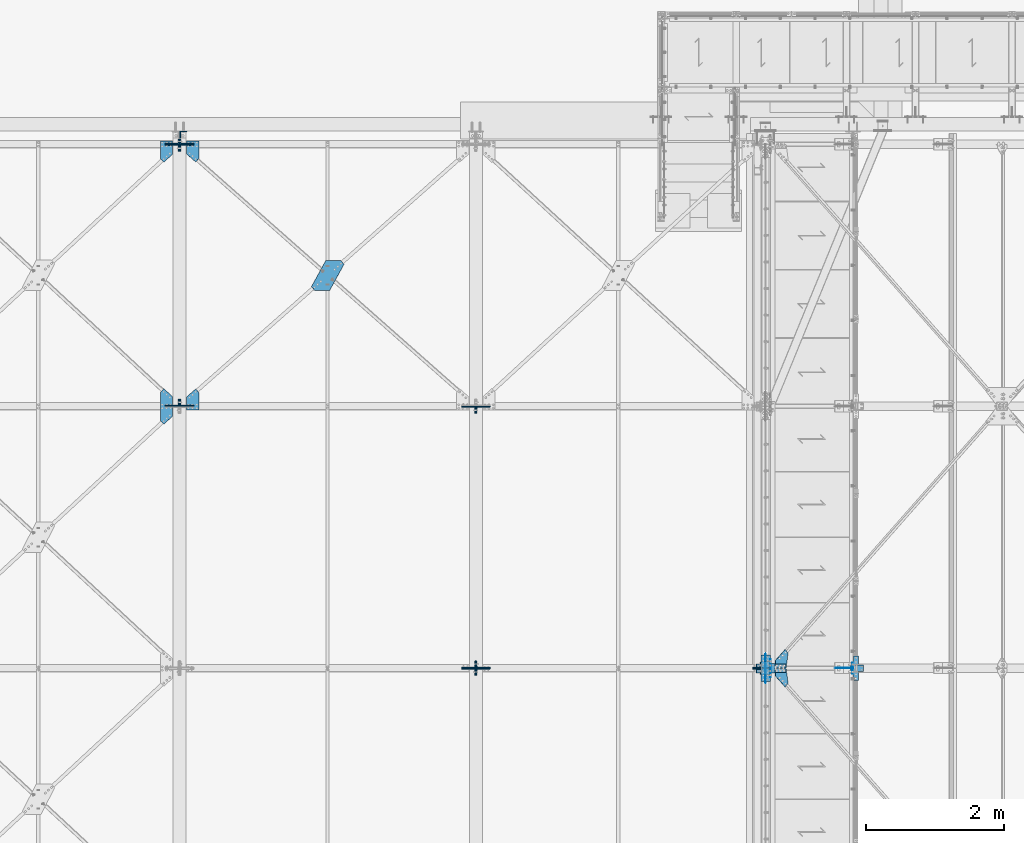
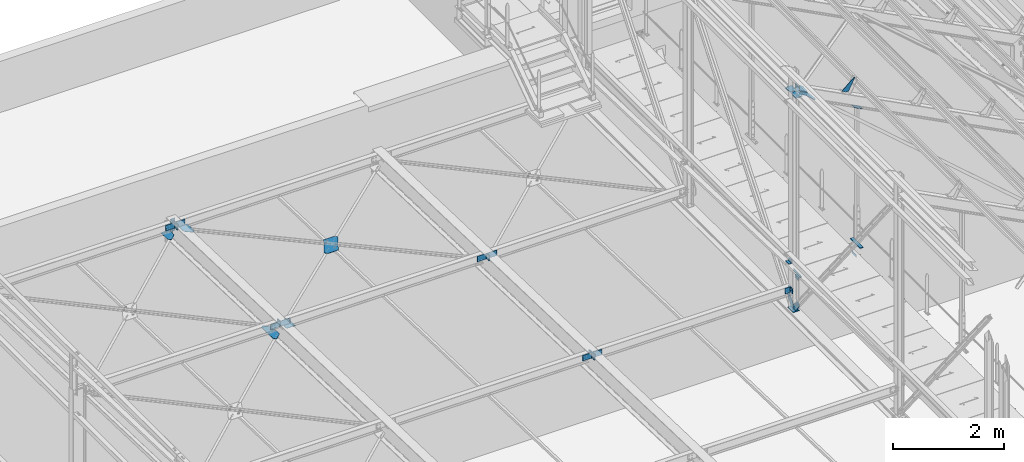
# One storey, part 80 of 362: 20 beams, 17 members, 31 elements without a shape of their own.
"""IFC2X3 building model written with IfcOpenShell, lengths in millimetres."""

from ifc_helpers import new_model, si_unit, frame, frame_2d, origin_with_axes, origin_2d_with_axis, place, context, subcontext, project, spatial, polyline, circle_curve, parameter, trimmed, segment, composite_curve, rectangle, l_section, outline, extrude, clip, halfspace, material, type_object, element, aggregate, save


model = new_model("IFC2X3")

# Units and contexts
model_context = context("Model", 3, precision=1e-05, world=origin_with_axes())
body_context = subcontext(model_context, "Body", "Model", "MODEL_VIEW")
ifc_project = project(units=[si_unit("LENGTHUNIT", "METRE", prefix="MILLI"), si_unit("AREAUNIT", "SQUARE_METRE"), si_unit("VOLUMEUNIT", "CUBIC_METRE"), si_unit("MASSUNIT", "GRAM", prefix="KILO"), si_unit("TIMEUNIT", "SECOND"), si_unit("PLANEANGLEUNIT", "RADIAN"), si_unit("SOLIDANGLEUNIT", "STERADIAN"), si_unit("THERMODYNAMICTEMPERATUREUNIT", "DEGREE_CELSIUS"), si_unit("LUMINOUSINTENSITYUNIT", "LUMEN")], contexts=[model_context])

# Site, building, storey
site_placement = place(None, origin_with_axes())
site = spatial("IfcSite", under=ifc_project, at=site_placement, Name="Undefined", CompositionType="ELEMENT")
building_placement = place(site_placement, origin_with_axes())
building = spatial("IfcBuilding", under=site, at=building_placement, Name="Undefined", CompositionType="ELEMENT")
storey_placement = place(building_placement, origin_with_axes())
storey = spatial("IfcBuildingStorey", under=building, at=storey_placement, Name="Undefined", CompositionType="ELEMENT", Elevation=0.0)

# Assembly, beam
assembly_1_placement = place(storey_placement, origin_with_axes())
assembly_1 = element("IfcElementAssembly", 1, at=assembly_1_placement, inside=storey, AssemblyPlace="NOTDEFINED", PredefinedType="NOTDEFINED")
ifc_material = material(Name="Undefined/S235-E24")
beam_type_1 = type_object("IfcBeamType", Name="L70*7", PredefinedType="NOTDEFINED")
beam_1_placement = place(assembly_1_placement, frame((12781.5082291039, 7530.0, 7915.0), z_axis=(1.0, 0.0, 0.0), x_axis=(0.0, 1.0, 0.0)))
beam_1 = element("IfcBeam", 2, at=beam_1_placement, type_object=beam_type_1, material=ifc_material, Name="ATTACHE", ObjectType="L70*7", context=body_context, shape_type="SweptSolid", body=[
    extrude(l_section(Depth=70.0, Width=70.0, Thickness=7.0, FilletRadius=9.0, EdgeRadius=4.5, at=origin_2d_with_axis()), frame((140.0, 0.0, 0.0), z_axis=(-1.0, 0.0, 0.0), x_axis=(0.0, -1.0, 0.0)), (0.0, 0.0, 1.0), 140.0),
])
aggregate(assembly_1, [beam_1])

assembly_2_placement = place(storey_placement, origin_with_axes())
assembly_2 = element("IfcElementAssembly", 3, at=assembly_2_placement, inside=storey, AssemblyPlace="NOTDEFINED", PredefinedType="NOTDEFINED")
beam_2_placement = place(assembly_2_placement, frame((12578.5000000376, 7664.81291402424, 8349.41493629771), z_axis=(0.0, 0.0314135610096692, 0.999506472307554), x_axis=(0.0, -0.999506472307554, 0.031413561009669)))
beam_2 = element("IfcBeam", 4, at=beam_2_placement, type_object=beam_type_1, material=ifc_material, Name="ATTACHE", ObjectType="L70*7", context=body_context, shape_type="SweptSolid", body=[
    extrude(l_section(Depth=70.0, Width=70.0, Thickness=7.0, FilletRadius=9.0, EdgeRadius=4.5, at=origin_2d_with_axis()), frame((130.004127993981, 0.0, 9.02084851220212e-16), z_axis=(-1.0, 0.0, 0.0), x_axis=(0.0, -1.0, 0.0)), (0.0, 0.0, 1.0), 130.0),
])
aggregate(assembly_2, [beam_2])

assembly_3_placement = place(storey_placement, origin_with_axes())
assembly_3 = element("IfcElementAssembly", 5, at=assembly_3_placement, inside=storey, AssemblyPlace="NOTDEFINED", PredefinedType="NOTDEFINED")
beam_type_2 = type_object("IfcBeamType", Name="TOLE6*196", PredefinedType="NOTDEFINED")
beam_3_placement = place(assembly_3_placement, frame((12979.8795234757, 7586.50020636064, 11910.9317991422), z_axis=(0.463528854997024, 6.99999093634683e-09, 0.886081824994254), x_axis=(-0.886082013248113, 9.38091927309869e-07, 0.463528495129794)))
beam_3 = element("IfcBeam", 6, at=beam_3_placement, type_object=beam_type_2, material=ifc_material, Name="GOUSSET", ObjectType="TOLE6*196", context=body_context, shape_type="SweptSolid", body=[
    extrude(outline(polyline([(0.0, 0.0), (180.000000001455, -5.27506927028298e-10), (179.99996948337, 96.5251846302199), (18.9664421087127, 258.555816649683), (-30.6835594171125, 209.211318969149), (0.0, 0.0)])), frame((0.0, 0.0, -3.0), z_axis=(0.0, 0.0, 1.0), x_axis=(1.0, 0.0, 0.0)), (0.0, 0.0, 1.0), 6.0),
])
aggregate(assembly_3, [beam_3])

assembly_4_placement = place(storey_placement, origin_with_axes())
assembly_4 = element("IfcElementAssembly", 7, at=assembly_4_placement, inside=storey, AssemblyPlace="NOTDEFINED", PredefinedType="NOTDEFINED")
beam_4_placement = place(assembly_4_placement, frame((13007.0676814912, 7822.71112097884, 11896.7090901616), z_axis=(0.463528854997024, 6.99999093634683e-09, 0.886081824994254), x_axis=(-0.628485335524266, 0.704921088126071, 0.328774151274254)))
beam_4 = element("IfcBeam", 8, at=beam_4_placement, type_object=beam_type_2, material=ifc_material, Name="GOUSSET", ObjectType="TOLE6*196", context=body_context, shape_type="SweptSolid", body=[
    extrude(outline(polyline([(0.0, 0.0), (70.0, 0.0), (69.999999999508, 228.441986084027), (1.9573673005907, 296.90588378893), (-125.714042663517, 170.020095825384), (0.0, 0.0)])), frame((0.0, 0.0, -3.0), z_axis=(0.0, 0.0, 1.0), x_axis=(1.0, 0.0, 0.0)), (0.0, 0.0, 1.0), 6.0),
])
aggregate(assembly_4, [beam_4])

# Assembly, member
assembly_5_placement = place(storey_placement, origin_with_axes())
assembly_5 = element("IfcElementAssembly", 9, at=assembly_5_placement, inside=storey, AssemblyPlace="NOTDEFINED", PredefinedType="NOTDEFINED")
member_type_1 = type_object("IfcMemberType", Name="L60*6", PredefinedType="NOTDEFINED")
member_1_placement = place(assembly_5_placement, frame((12805.0883119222, 7566.50010304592, 11965.1262198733), z_axis=(0.0, -1.0, 0.0), x_axis=(0.886081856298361, 3.500000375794e-08, -0.463528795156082)))
member_1 = element("IfcMember", 10, at=member_1_placement, type_object=member_type_1, material=ifc_material, Name="ATTACHE", ObjectType="L60*6", context=body_context, shape_type="SweptSolid", body=[
    extrude(l_section(Depth=60.0, Width=60.0, Thickness=6.0, FilletRadius=8.0, EdgeRadius=4.0, at=origin_2d_with_axis()), frame((180.0, 0.0, 0.0), z_axis=(-1.0, 0.0, 0.0), x_axis=(0.0, -1.0, 0.0)), (0.0, 0.0, 1.0), 180.0),
])
aggregate(assembly_5, [member_1])

assembly_6_placement = place(storey_placement, origin_with_axes())
assembly_6 = element("IfcElementAssembly", 11, at=assembly_6_placement, inside=storey, AssemblyPlace="NOTDEFINED", PredefinedType="NOTDEFINED")
member_2_placement = place(assembly_6_placement, frame((12964.583045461, 7633.49989955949, 11881.691036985), z_axis=(0.0, 1.0, 0.0), x_axis=(-0.886081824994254, 0.0, 0.463528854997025)))
member_2 = element("IfcMember", 12, at=member_2_placement, type_object=member_type_1, material=ifc_material, Name="ATTACHE", ObjectType="L60*6", context=body_context, shape_type="SweptSolid", body=[
    extrude(l_section(Depth=60.0, Width=60.0, Thickness=6.0, FilletRadius=8.0, EdgeRadius=4.0, at=origin_2d_with_axis()), frame((180.0, 0.0, 0.0), z_axis=(-1.0, 0.0, 0.0), x_axis=(0.0, -1.0, 0.0)), (0.0, 0.0, 1.0), 180.0),
])
aggregate(assembly_6, [member_2])

# Assembly, beam
assembly_7_placement = place(storey_placement, origin_with_axes())
assembly_7 = element("IfcElementAssembly", 13, at=assembly_7_placement, inside=storey, Name="PANNE SHED", AssemblyPlace="NOTDEFINED", PredefinedType="NOTDEFINED")
beam_type_3 = type_object("IfcBeamType", Name="TOLE8*140", PredefinedType="NOTDEFINED")
beam_5_placement = place(assembly_7_placement, frame((13957.7613225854, 7600.0, 11910.6201334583), z_axis=(0.0, -1.0, 0.0), x_axis=(-0.886081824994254, 0.0, 0.463528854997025)))
beam_5 = element("IfcBeam", 14, at=beam_5_placement, type_object=beam_type_3, material=ifc_material, Name="RAIDISSEUR", ObjectType="TOLE8*140", context=body_context, shape_type="SweptSolid", body=[
    extrude(outline(polyline([(0.0, 0.0), (19.9999999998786, -3.63797880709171e-12), (140.000030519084, 299.999999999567), (140.000030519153, 319.999999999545), (30.0000147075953, 319.999999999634), (0.0, 290.0), (0.0, 0.0)])), frame((0.0, 0.0, -4.0), z_axis=(0.0, 0.0, 1.0), x_axis=(1.0, 0.0, 0.0)), (0.0, 0.0, 1.0), 8.0),
])
aggregate(assembly_7, [beam_5])

assembly_8_placement = place(storey_placement, origin_with_axes())
assembly_8 = element("IfcElementAssembly", 15, at=assembly_8_placement, inside=storey, AssemblyPlace="NOTDEFINED", PredefinedType="NOTDEFINED")
beam_type_4 = type_object("IfcBeamType", Name="TOLE6*182", PredefinedType="NOTDEFINED")
beam_6_placement = place(assembly_8_placement, frame((4415.2839202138, 11651.3792403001, 7480.74198576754), z_axis=(7.58071938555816e-11, 0.0314107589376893, 0.999506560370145), x_axis=(-0.749166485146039, -0.662054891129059, 0.0208062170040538)))
beam_6 = element("IfcBeam", 16, at=beam_6_placement, type_object=beam_type_4, material=ifc_material, Name="GOUSSET", ObjectType="TOLE6*182", context=body_context, shape_type="SweptSolid", body=[
    extrude(outline(polyline([(0.0, 0.0), (180.579223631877, -4.80213202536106e-10), (303.207183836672, 138.694641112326), (167.120590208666, 259.016693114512), (-7.90371359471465e-08, 70.000007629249), (0.0, 0.0)])), frame((0.0, 0.0, -3.0), z_axis=(0.0, 0.0, 1.0), x_axis=(1.0, 0.0, 0.0)), (0.0, 0.0, 1.0), 6.0),
])
aggregate(assembly_8, [beam_6])

assembly_9_placement = place(storey_placement, origin_with_axes())
assembly_9 = element("IfcElementAssembly", 17, at=assembly_9_placement, inside=storey, AssemblyPlace="NOTDEFINED", PredefinedType="NOTDEFINED")
beam_7_placement = place(assembly_9_placement, frame((4415.28392021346, 14942.1461018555, 7377.3239584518), z_axis=(-1.05403257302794e-09, -0.0314112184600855, -0.999506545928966), x_axis=(-0.749166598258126, 0.662054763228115, -0.0208062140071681)))
beam_7 = element("IfcBeam", 18, at=beam_7_placement, type_object=beam_type_4, material=ifc_material, Name="GOUSSET", ObjectType="TOLE6*182", context=body_context, shape_type="SweptSolid", body=[
    extrude(outline(polyline([(0.0, 0.0), (180.579223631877, -4.80213202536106e-10), (303.207183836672, 138.694641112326), (167.120590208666, 259.016693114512), (-7.90371359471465e-08, 70.000007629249), (0.0, 0.0)])), frame((0.0, 0.0, -3.0), z_axis=(0.0, 0.0, 1.0), x_axis=(1.0, 0.0, 0.0)), (0.0, 0.0, 1.0), 6.0),
])
aggregate(assembly_9, [beam_7])

assembly_10_placement = place(storey_placement, origin_with_axes())
assembly_10 = element("IfcElementAssembly", 19, at=assembly_10_placement, inside=storey, AssemblyPlace="NOTDEFINED", PredefinedType="NOTDEFINED")
beam_type_5 = type_object("IfcBeamType", Name="TOLE6*259", PredefinedType="NOTDEFINED")
beam_8_placement = place(assembly_10_placement, frame((6520.32914237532, 13511.6590173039, 7422.27948359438), z_axis=(7.58071938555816e-11, 0.0314107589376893, 0.999506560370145), x_axis=(-1.0, 0.0, 0.0)))
beam_8 = element("IfcBeam", 20, at=beam_8_placement, type_object=beam_type_5, material=ifc_material, Name="GOUSSET", ObjectType="TOLE6*259", context=body_context, shape_type="SweptSolid", body=[
    extrude(outline(polyline([(0.0, 0.0), (219.999999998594, -9.93168214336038e-10), (427.024932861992, 377.55758667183), (380.658203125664, 429.999206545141), (160.658203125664, 429.999206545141), (-46.3667221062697, 52.4416580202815), (0.0, 0.0)])), frame((0.0, 0.0, -3.0), z_axis=(0.0, 0.0, 1.0), x_axis=(1.0, 0.0, 0.0)), (0.0, 0.0, 1.0), 6.0),
])
aggregate(assembly_10, [beam_8])

assembly_11_placement = place(storey_placement, origin_with_axes())
assembly_11 = element("IfcElementAssembly", 21, at=assembly_11_placement, inside=storey, AssemblyPlace="NOTDEFINED", PredefinedType="NOTDEFINED")
beam_type_6 = type_object("IfcBeamType", Name="TOLE6*175", PredefinedType="NOTDEFINED")
beam_9_placement = place(assembly_11_placement, frame((3953.00230697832, 14938.0996102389, 7377.45112643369), z_axis=(7.58071938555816e-11, 0.0314107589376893, 0.999506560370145), x_axis=(0.732434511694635, 0.680501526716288, -0.0213859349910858)))
beam_9 = element("IfcBeam", 22, at=beam_9_placement, type_object=beam_type_6, material=ifc_material, Name="GOUSSET", ObjectType="TOLE6*175", context=body_context, shape_type="SweptSolid", body=[
    extrude(outline(polyline([(0.0, 0.0), (173.391189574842, 4.54747350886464e-11), (303.255157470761, 139.705673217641), (175.330810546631, 258.618286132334), (-7.87930366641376e-05, 69.9999999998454), (0.0, 0.0)])), frame((0.0, 0.0, -3.0), z_axis=(0.0, 0.0, 1.0), x_axis=(1.0, 0.0, 0.0)), (0.0, 0.0, 1.0), 6.0),
])
aggregate(assembly_11, [beam_9])

assembly_12_placement = place(storey_placement, origin_with_axes())
assembly_12 = element("IfcElementAssembly", 23, at=assembly_12_placement, inside=storey, AssemblyPlace="NOTDEFINED", PredefinedType="NOTDEFINED")
beam_10_placement = place(assembly_12_placement, frame((4079.9999991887, 11537.4360725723, 7484.32284643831), z_axis=(7.58071938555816e-11, 0.0314107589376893, 0.999506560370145), x_axis=(-0.732434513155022, 0.680501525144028, -0.0213859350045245)))
beam_10 = element("IfcBeam", 24, at=beam_10_placement, type_object=beam_type_6, material=ifc_material, Name="GOUSSET", ObjectType="TOLE6*175", context=body_context, shape_type="SweptSolid", body=[
    extrude(outline(polyline([(0.0, 0.0), (173.397750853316, 2.20097717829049e-10), (173.397735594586, 70.0000000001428), (-109.18666839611, 373.993011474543), (-179.000320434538, 379.097381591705), (-191.644119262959, 206.167800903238), (0.0, 0.0)])), frame((0.0, 0.0, -3.0), z_axis=(0.0, 0.0, 1.0), x_axis=(1.0, 0.0, 0.0)), (0.0, 0.0, 1.0), 6.0),
])
aggregate(assembly_12, [beam_10])

# Assembly, member
assembly_13_placement = place(storey_placement, origin_with_axes())
assembly_13 = element("IfcElementAssembly", 25, at=assembly_13_placement, inside=storey, AssemblyPlace="NOTDEFINED", PredefinedType="NOTDEFINED")
member_type_2 = type_object("IfcMemberType", Name="L200*100*10", PredefinedType="NOTDEFINED")
member_3_placement = place(assembly_13_placement, frame((4074.99999918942, 15254.8592594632, 7530.5716746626), z_axis=(-1.0, 0.0, 0.0), x_axis=(-1.05403257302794e-09, -0.0314112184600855, -0.999506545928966)))
member_3 = element("IfcMember", 26, at=member_3_placement, type_object=member_type_2, material=ifc_material, Name="ATTACHE", ObjectType="L200*100*10", context=body_context, shape_type="Clipping", body=[
    clip(extrude(l_section(Depth=200.0, Width=100.0, Thickness=10.0, FilletRadius=15.0, EdgeRadius=7.5, at=origin_2d_with_axis()), frame((120.0, 0.0, 0.0), z_axis=(-1.0, 0.0, 0.0), x_axis=(0.0, -1.0, 0.0)), (0.0, 0.0, 1.0), 120.0), halfspace(frame((1.72803993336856e-11, -19.9999999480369, -100.0), z_axis=(0.0, -0.999999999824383, 1.87412578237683e-05), x_axis=(-3.14419594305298e-10, 1.87412578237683e-05, 0.999999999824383)), False)),
])
aggregate(assembly_13, [member_3])

assembly_14_placement = place(storey_placement, origin_with_axes())
assembly_14 = element("IfcElementAssembly", 27, at=assembly_14_placement, inside=storey, AssemblyPlace="NOTDEFINED", PredefinedType="NOTDEFINED")
member_4_placement = place(assembly_14_placement, frame((4284.99999918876, 15251.0899132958, 7410.63088915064), z_axis=(1.0, 0.0, 0.0), x_axis=(7.58071938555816e-11, 0.0314107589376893, 0.999506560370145)))
member_4 = element("IfcMember", 28, at=member_4_placement, type_object=member_type_2, material=ifc_material, Name="ATTACHE", ObjectType="L200*100*10", context=body_context, shape_type="Clipping", body=[
    clip(extrude(l_section(Depth=200.0, Width=100.0, Thickness=10.0, FilletRadius=15.0, EdgeRadius=7.5, at=origin_2d_with_axis()), frame((120.0, 0.0, 0.0), z_axis=(-1.0, 0.0, 0.0), x_axis=(0.0, -1.0, 0.0)), (0.0, 0.0, 1.0), 120.0), halfspace(frame((1.72803993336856e-11, -19.9999999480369, -100.0), z_axis=(0.0, -0.999999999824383, 1.87412578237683e-05), x_axis=(-3.14419594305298e-10, 1.87412578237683e-05, 0.999999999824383)), False)),
])
aggregate(assembly_14, [member_4])

assembly_15_placement = place(storey_placement, origin_with_axes())
assembly_15 = element("IfcElementAssembly", 29, at=assembly_15_placement, inside=storey, AssemblyPlace="NOTDEFINED", PredefinedType="NOTDEFINED")
member_5_placement = place(assembly_15_placement, frame((4074.99999918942, 15145.1413575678, 7413.96050534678), z_axis=(-1.0, 0.0, 0.0), x_axis=(7.58071938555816e-11, 0.0314107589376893, 0.999506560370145)))
member_5 = element("IfcMember", 30, at=member_5_placement, type_object=member_type_2, material=ifc_material, Name="ATTACHE", ObjectType="L200*100*10", context=body_context, shape_type="SweptSolid", body=[
    extrude(l_section(Depth=200.0, Width=100.0, Thickness=10.0, FilletRadius=15.0, EdgeRadius=7.5, at=origin_2d_with_axis()), frame((120.0, 0.0, 0.0), z_axis=(-1.0, 0.0, 0.0), x_axis=(0.0, -1.0, 0.0)), (0.0, 0.0, 1.0), 120.0),
])
aggregate(assembly_15, [member_5])

assembly_16_placement = place(storey_placement, origin_with_axes())
assembly_16 = element("IfcElementAssembly", 31, at=assembly_16_placement, inside=storey, AssemblyPlace="NOTDEFINED", PredefinedType="NOTDEFINED")
member_6_placement = place(assembly_16_placement, frame((4284.99999918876, 15148.9107037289, 7533.90129085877), z_axis=(1.0, 0.0, 0.0), x_axis=(-1.05403257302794e-09, -0.0314112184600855, -0.999506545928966)))
member_6 = element("IfcMember", 32, at=member_6_placement, type_object=member_type_2, material=ifc_material, Name="ATTACHE", ObjectType="L200*100*10", context=body_context, shape_type="SweptSolid", body=[
    extrude(l_section(Depth=200.0, Width=100.0, Thickness=10.0, FilletRadius=15.0, EdgeRadius=7.5, at=origin_2d_with_axis()), frame((120.0, 0.0, 0.0), z_axis=(-1.0, 0.0, 0.0), x_axis=(0.0, -1.0, 0.0)), (0.0, 0.0, 1.0), 120.0),
])
aggregate(assembly_16, [member_6])

assembly_17_placement = place(storey_placement, origin_with_axes())
assembly_17 = element("IfcElementAssembly", 33, at=assembly_17_placement, inside=storey, AssemblyPlace="NOTDEFINED", PredefinedType="NOTDEFINED")
member_7_placement = place(assembly_17_placement, frame((8375.00000000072, 11345.1419800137, 7533.38204333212), z_axis=(-1.0, 0.0, 0.0), x_axis=(7.58071938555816e-11, 0.0314107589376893, 0.999506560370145)))
member_7 = element("IfcMember", 34, at=member_7_placement, type_object=member_type_2, material=ifc_material, Name="ATTACHE", ObjectType="L200*100*10", context=body_context, shape_type="SweptSolid", body=[
    extrude(l_section(Depth=200.0, Width=100.0, Thickness=10.0, FilletRadius=15.0, EdgeRadius=7.5, at=origin_2d_with_axis()), frame((120.0, 0.0, 0.0), z_axis=(-1.0, 0.0, 0.0), x_axis=(0.0, -1.0, 0.0)), (0.0, 0.0, 1.0), 120.0),
])
aggregate(assembly_17, [member_7])

assembly_18_placement = place(storey_placement, origin_with_axes())
assembly_18 = element("IfcElementAssembly", 35, at=assembly_18_placement, inside=storey, AssemblyPlace="NOTDEFINED", PredefinedType="NOTDEFINED")
member_8_placement = place(assembly_18_placement, frame((8585.00000000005, 11348.9113261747, 7653.32282884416), z_axis=(1.0, 0.0, 0.0), x_axis=(-1.05403257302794e-09, -0.0314112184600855, -0.999506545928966)))
member_8 = element("IfcMember", 36, at=member_8_placement, type_object=member_type_2, material=ifc_material, Name="ATTACHE", ObjectType="L200*100*10", context=body_context, shape_type="SweptSolid", body=[
    extrude(l_section(Depth=200.0, Width=100.0, Thickness=10.0, FilletRadius=15.0, EdgeRadius=7.5, at=origin_2d_with_axis()), frame((120.0, 0.0, 0.0), z_axis=(-1.0, 0.0, 0.0), x_axis=(0.0, -1.0, 0.0)), (0.0, 0.0, 1.0), 120.0),
])
aggregate(assembly_18, [member_8])

assembly_19_placement = place(storey_placement, origin_with_axes())
assembly_19 = element("IfcElementAssembly", 37, at=assembly_19_placement, inside=storey, AssemblyPlace="NOTDEFINED", PredefinedType="NOTDEFINED")
member_9_placement = place(assembly_19_placement, frame((8375.00000000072, 7654.85936797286, 7769.41478634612), z_axis=(-1.0, 0.0, 0.0), x_axis=(-1.05403257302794e-09, -0.0314112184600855, -0.999506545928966)))
member_9 = element("IfcMember", 38, at=member_9_placement, type_object=member_type_2, material=ifc_material, Name="ATTACHE", ObjectType="L200*100*10", context=body_context, shape_type="SweptSolid", body=[
    extrude(l_section(Depth=200.0, Width=100.0, Thickness=10.0, FilletRadius=15.0, EdgeRadius=7.5, at=origin_2d_with_axis()), frame((120.0, 0.0, 0.0), z_axis=(-1.0, 0.0, 0.0), x_axis=(0.0, -1.0, 0.0)), (0.0, 0.0, 1.0), 120.0),
])
aggregate(assembly_19, [member_9])

assembly_20_placement = place(storey_placement, origin_with_axes())
assembly_20 = element("IfcElementAssembly", 39, at=assembly_20_placement, inside=storey, AssemblyPlace="NOTDEFINED", PredefinedType="NOTDEFINED")
member_10_placement = place(assembly_20_placement, frame((8585.00000000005, 7651.09002180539, 7649.47400083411), z_axis=(1.0, 0.0, 0.0), x_axis=(7.58071938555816e-11, 0.0314107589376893, 0.999506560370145)))
member_10 = element("IfcMember", 40, at=member_10_placement, type_object=member_type_2, material=ifc_material, Name="ATTACHE", ObjectType="L200*100*10", context=body_context, shape_type="SweptSolid", body=[
    extrude(l_section(Depth=200.0, Width=100.0, Thickness=10.0, FilletRadius=15.0, EdgeRadius=7.5, at=origin_2d_with_axis()), frame((120.0, 0.0, 0.0), z_axis=(-1.0, 0.0, 0.0), x_axis=(0.0, -1.0, 0.0)), (0.0, 0.0, 1.0), 120.0),
])
aggregate(assembly_20, [member_10])

assembly_21_placement = place(storey_placement, origin_with_axes())
assembly_21 = element("IfcElementAssembly", 41, at=assembly_21_placement, inside=storey, AssemblyPlace="NOTDEFINED", PredefinedType="NOTDEFINED")
member_11_placement = place(assembly_21_placement, frame((8375.00000000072, 7545.14146607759, 7652.80361703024), z_axis=(-1.0, 0.0, 0.0), x_axis=(7.58071938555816e-11, 0.0314107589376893, 0.999506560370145)))
member_11 = element("IfcMember", 42, at=member_11_placement, type_object=member_type_2, material=ifc_material, Name="ATTACHE", ObjectType="L200*100*10", context=body_context, shape_type="SweptSolid", body=[
    extrude(l_section(Depth=200.0, Width=100.0, Thickness=10.0, FilletRadius=15.0, EdgeRadius=7.5, at=origin_2d_with_axis()), frame((120.0, 0.0, 0.0), z_axis=(-1.0, 0.0, 0.0), x_axis=(0.0, -1.0, 0.0)), (0.0, 0.0, 1.0), 120.0),
])
aggregate(assembly_21, [member_11])

assembly_22_placement = place(storey_placement, origin_with_axes())
assembly_22 = element("IfcElementAssembly", 43, at=assembly_22_placement, inside=storey, AssemblyPlace="NOTDEFINED", PredefinedType="NOTDEFINED")
member_12_placement = place(assembly_22_placement, frame((8585.00000000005, 7548.91081223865, 7772.74440254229), z_axis=(1.0, 0.0, 0.0), x_axis=(-1.05403257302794e-09, -0.0314112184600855, -0.999506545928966)))
member_12 = element("IfcMember", 44, at=member_12_placement, type_object=member_type_2, material=ifc_material, Name="ATTACHE", ObjectType="L200*100*10", context=body_context, shape_type="SweptSolid", body=[
    extrude(l_section(Depth=200.0, Width=100.0, Thickness=10.0, FilletRadius=15.0, EdgeRadius=7.5, at=origin_2d_with_axis()), frame((120.0, 0.0, 0.0), z_axis=(-1.0, 0.0, 0.0), x_axis=(0.0, -1.0, 0.0)), (0.0, 0.0, 1.0), 120.0),
])
aggregate(assembly_22, [member_12])

assembly_23_placement = place(storey_placement, origin_with_axes())
assembly_23 = element("IfcElementAssembly", 45, at=assembly_23_placement, inside=storey, AssemblyPlace="NOTDEFINED", PredefinedType="NOTDEFINED")
member_13_placement = place(assembly_23_placement, frame((4075.00000000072, 11454.8598819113, 7649.99321264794), z_axis=(-1.0, 0.0, 0.0), x_axis=(-1.05403257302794e-09, -0.0314112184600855, -0.999506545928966)))
member_13 = element("IfcMember", 46, at=member_13_placement, type_object=member_type_2, material=ifc_material, Name="ATTACHE", ObjectType="L200*100*10", context=body_context, shape_type="SweptSolid", body=[
    extrude(l_section(Depth=200.0, Width=100.0, Thickness=10.0, FilletRadius=15.0, EdgeRadius=7.5, at=origin_2d_with_axis()), frame((120.0, 0.0, 0.0), z_axis=(-1.0, 0.0, 0.0), x_axis=(0.0, -1.0, 0.0)), (0.0, 0.0, 1.0), 120.0),
])
aggregate(assembly_23, [member_13])

assembly_24_placement = place(storey_placement, origin_with_axes())
assembly_24 = element("IfcElementAssembly", 47, at=assembly_24_placement, inside=storey, AssemblyPlace="NOTDEFINED", PredefinedType="NOTDEFINED")
member_14_placement = place(assembly_24_placement, frame((4285.00000000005, 11451.0905357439, 7530.05242713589), z_axis=(1.0, 0.0, 0.0), x_axis=(7.58071938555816e-11, 0.0314107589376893, 0.999506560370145)))
member_14 = element("IfcMember", 48, at=member_14_placement, type_object=member_type_2, material=ifc_material, Name="ATTACHE", ObjectType="L200*100*10", context=body_context, shape_type="SweptSolid", body=[
    extrude(l_section(Depth=200.0, Width=100.0, Thickness=10.0, FilletRadius=15.0, EdgeRadius=7.5, at=origin_2d_with_axis()), frame((120.0, 0.0, 0.0), z_axis=(-1.0, 0.0, 0.0), x_axis=(0.0, -1.0, 0.0)), (0.0, 0.0, 1.0), 120.0),
])
aggregate(assembly_24, [member_14])

# Assembly, beam
assembly_25_placement = place(storey_placement, origin_with_axes())
assembly_25 = element("IfcElementAssembly", 49, at=assembly_25_placement, inside=storey, Name="MONTANT", AssemblyPlace="NOTDEFINED", PredefinedType="NOTDEFINED")
beam_type_7 = type_object("IfcBeamType", Name="PL10*133", PredefinedType="NOTDEFINED")
beam_11_placement = place(assembly_25_placement, frame((12680.0, 7700.00000000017, 7254.99999999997), z_axis=(1.0, 0.0, 0.0), x_axis=(0.0, -1.0, 0.0)))
beam_11 = element("IfcBeam", 50, at=beam_11_placement, type_object=beam_type_7, material=ifc_material, Name="PLATINE", ObjectType="PL10*133", context=body_context, shape_type="SweptSolid", body=[
    extrude(rectangle(XDim=10.0, YDim=133.0, at=origin_2d_with_axis()), frame((200.0, 0.0, 0.0), z_axis=(-1.0, 0.0, 0.0), x_axis=(0.0, -1.0, 0.0)), (0.0, 0.0, 1.0), 200.0),
])

# Assembly, member
assembly_26_placement = place(storey_placement, origin_with_axes())
assembly_26 = element("IfcElementAssembly", 51, at=assembly_26_placement, inside=storey, AssemblyPlace="NOTDEFINED", PredefinedType="NOTDEFINED")
member_type_3 = type_object("IfcMemberType", Name="PL10*100", PredefinedType="NOTDEFINED")
member_15_placement = place(assembly_26_placement, frame((13911.9348604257, 7600.00000001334, 11285.668922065), z_axis=(0.0, -1.0, 0.0), x_axis=(0.886081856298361, 3.500000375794e-08, -0.463528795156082)))
member_15 = element("IfcMember", 52, at=member_15_placement, type_object=member_type_3, material=ifc_material, Name="PLATINE", ObjectType="PL10*100", context=body_context, shape_type="SweptSolid", body=[
    extrude(rectangle(XDim=10.0, YDim=100.0, at=origin_2d_with_axis()), frame((210.000000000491, 0.0, 1.81898940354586e-12), z_axis=(-1.0, 0.0, 0.0), x_axis=(0.0, -1.0, 0.0)), (0.0, 0.0, 1.0), 210.0),
])

# Assembly, beams
assembly_27_placement = place(storey_placement, origin_with_axes())
assembly_27 = element("IfcElementAssembly", 53, at=assembly_27_placement, inside=storey, AssemblyPlace="NOTDEFINED", PredefinedType="NOTDEFINED")
beam_type_8 = type_object("IfcBeamType", Name="TOLE6*60", PredefinedType="NOTDEFINED")
beam_12_placement = place(assembly_27_placement, frame((13942.9998855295, 7520.0, 7985.0), z_axis=(-1.0, 0.0, 0.0), x_axis=(0.0, 0.0, 1.0)))
beam_12 = element("IfcBeam", 54, at=beam_12_placement, type_object=beam_type_8, material=ifc_material, Name="PLATINE", ObjectType="TOLE6*60", context=body_context, shape_type="SweptSolid", body=[
    extrude(outline(polyline([(0.0, 0.0), (60.0, 0.0), (60.0, 159.999984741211), (0.0, 159.999984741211), (0.0, 0.0)])), frame((0.0, 0.0, -3.0), z_axis=(0.0, 0.0, 1.0), x_axis=(1.0, 0.0, 0.0)), (0.0, 0.0, 1.0), 6.0),
])
beam_13_placement = place(assembly_27_placement, frame((12755.0001144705, 7470.0, 7985.0), z_axis=(-1.0, 0.0, 0.0), x_axis=(0.0, 0.0, 1.0)))
beam_13 = element("IfcBeam", 55, at=beam_13_placement, type_object=beam_type_8, material=ifc_material, Name="PLATINE", ObjectType="TOLE6*60", context=body_context, shape_type="SweptSolid", body=[
    extrude(outline(polyline([(0.0, 0.0), (60.0, 0.0), (60.0, 260.0), (0.0, 260.0), (0.0, 0.0)])), frame((0.0, 0.0, -3.0), z_axis=(0.0, 0.0, 1.0), x_axis=(1.0, 0.0, 0.0)), (0.0, 0.0, 1.0), 6.0),
])
aggregate(assembly_27, [beam_12, beam_13])

# Beam
beam_type_9 = type_object("IfcBeamType", Name="PL10*70", PredefinedType="NOTDEFINED")
beam_14_placement = place(assembly_26_placement, frame((13993.9998855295, 7780.00010616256, 8245.00000367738), z_axis=(1.0, 0.0, 0.0), x_axis=(0.0, -1.0, 0.0)))
beam_14 = element("IfcBeam", 56, at=beam_14_placement, type_object=beam_type_9, material=ifc_material, Name="PLATINE", ObjectType="PL10*70", context=body_context, shape_type="SweptSolid", body=[
    extrude(rectangle(XDim=10.0, YDim=70.0, at=origin_2d_with_axis()), frame((360.000000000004, 0.0, 0.0), z_axis=(-1.0, 0.0, 0.0), x_axis=(0.0, -1.0, 0.0)), (0.0, 0.0, 1.0), 360.0),
])

aggregate(assembly_26, [member_15, beam_14])

# Assembly, beam
assembly_28_placement = place(storey_placement, origin_with_axes())
assembly_28 = element("IfcElementAssembly", 57, at=assembly_28_placement, inside=storey, Name="TRAVERSE SHED", AssemblyPlace="NOTDEFINED", PredefinedType="NOTDEFINED")
beam_type_10 = type_object("IfcBeamType", Name="PL10*140", PredefinedType="NOTDEFINED")
beam_15_placement = place(assembly_28_placement, frame((12751.5, 7600.0, 12161.0697488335), z_axis=(0.0, -1.0, 0.0), x_axis=(0.0, 0.0, -1.0)))
beam_15 = element("IfcBeam", 58, at=beam_15_placement, type_object=beam_type_10, material=ifc_material, Name="PLATINE", ObjectType="PL10*140", context=body_context, shape_type="SweptSolid", body=[
    extrude(rectangle(XDim=10.0, YDim=140.0, at=origin_2d_with_axis()), frame((259.795359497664, 0.0, 0.0), z_axis=(-1.0, 0.0, 0.0), x_axis=(0.0, -1.0, 0.0)), (0.0, 0.0, 1.0), 259.8),
])
aggregate(assembly_28, [beam_15])

# Assembly, member
assembly_29_placement = place(storey_placement, origin_with_axes())
assembly_29 = element("IfcElementAssembly", 59, at=assembly_29_placement, inside=storey, AssemblyPlace="NOTDEFINED", PredefinedType="NOTDEFINED")
member_type_4 = type_object("IfcMemberType", Name="L120*80*10", PredefinedType="NOTDEFINED")
member_16_placement = place(assembly_29_placement, frame((12553.5000000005, 7644.86435676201, 7769.73062464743), z_axis=(-1.0, 0.0, 0.0), x_axis=(-1.05403257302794e-09, -0.0314112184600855, -0.999506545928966)))
member_16 = element("IfcMember", 60, at=member_16_placement, type_object=member_type_4, material=ifc_material, Name="ATTACHE", ObjectType="L120*80*10", context=body_context, shape_type="SweptSolid", body=[
    extrude(l_section(Depth=120.0, Width=80.0, Thickness=10.0, FilletRadius=11.0, EdgeRadius=5.5, at=origin_2d_with_axis()), frame((120.0, 0.0, 0.0), z_axis=(-1.0, 0.0, 0.0), x_axis=(0.0, -1.0, 0.0)), (0.0, 0.0, 1.0), 120.0),
])
aggregate(assembly_29, [member_16])

assembly_30_placement = place(storey_placement, origin_with_axes())
assembly_30 = element("IfcElementAssembly", 61, at=assembly_30_placement, inside=storey, AssemblyPlace="NOTDEFINED", PredefinedType="NOTDEFINED")
member_17_placement = place(assembly_30_placement, frame((12553.5000000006, 7555.13658578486, 7652.49123097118), z_axis=(-1.0, 0.0, 0.0), x_axis=(7.58071938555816e-11, 0.0314107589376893, 0.999506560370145)))
member_17 = element("IfcMember", 62, at=member_17_placement, type_object=member_type_4, material=ifc_material, Name="ATTACHE", ObjectType="L120*80*10", context=body_context, shape_type="SweptSolid", body=[
    extrude(l_section(Depth=120.0, Width=80.0, Thickness=10.0, FilletRadius=11.0, EdgeRadius=5.5, at=origin_2d_with_axis()), frame((120.0, 0.0, 0.0), z_axis=(-1.0, 0.0, 0.0), x_axis=(0.0, -1.0, 0.0)), (0.0, 0.0, 1.0), 120.0),
])
aggregate(assembly_30, [member_17])

# Assembly, beam
assembly_31_placement = place(storey_placement, origin_with_axes())
assembly_31 = element("IfcElementAssembly", 63, at=assembly_31_placement, inside=storey, AssemblyPlace="NOTDEFINED", PredefinedType="NOTDEFINED")
beam_type_11 = type_object("IfcBeamType", Name="L100*10", PredefinedType="NOTDEFINED")
beam_16_placement = place(assembly_31_placement, frame((4235.0, 15340.0, 7483.28139518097), z_axis=(1.0, 0.0, 0.0), x_axis=(0.0, 0.0, -1.0)))
beam_16 = element("IfcBeam", 64, at=beam_16_placement, type_object=beam_type_11, material=ifc_material, Name="ATTACHE", ObjectType="L100*10", context=body_context, shape_type="SweptSolid", body=[
    extrude(l_section(Depth=100.0, Width=100.0, Thickness=10.0, FilletRadius=12.0, EdgeRadius=6.0, at=origin_2d_with_axis()), frame((280.0, 0.0, 0.0), z_axis=(-1.0, 0.0, 0.0), x_axis=(0.0, -1.0, 0.0)), (0.0, 0.0, 1.0), 280.0),
])
aggregate(assembly_31, [beam_16])

# Beam
beam_type_12 = type_object("IfcBeamType", Name="TOLE8*135", PredefinedType="NOTDEFINED")
beam_17_placement = place(assembly_25_placement, frame((12680.0, 7597.25, 7360.0), z_axis=(-1.0, 0.0, 0.0), x_axis=(0.0, 0.0, -1.0)))
beam_17 = element("IfcBeam", 65, at=beam_17_placement, type_object=beam_type_12, material=ifc_material, Name="GOUSSET", ObjectType="TOLE8*135", context=body_context, shape_type="SweptSolid", body=[
    extrude(outline(polyline([(0.0, 0.0), (80.00000000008, 8.00355337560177e-11), (100.0, 20.0), (100.0, 97.25), (-100.098197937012, 215.100280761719), (-149.837203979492, 152.442230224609), (0.0, 0.0)])), frame((0.0, 0.0, -4.0), z_axis=(0.0, 0.0, 1.0), x_axis=(1.0, 0.0, 0.0)), (0.0, 0.0, 1.0), 8.0),
])

beam_18_placement = place(assembly_25_placement, frame((12680.0, 7700.0, 7260.0), z_axis=(-1.0, 0.0, 0.0), x_axis=(0.0, -1.0, 0.0)))
beam_18 = element("IfcBeam", 66, at=beam_18_placement, type_object=beam_type_12, material=ifc_material, Name="GOUSSET", ObjectType="TOLE8*135", context=body_context, shape_type="SweptSolid", body=[
    extrude(outline(polyline([(0.0, 0.0), (77.25, 0.0), (97.25, 20.0), (97.25, 100.0), (-55.1922302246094, 249.837203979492), (-117.850288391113, 200.098205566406), (0.0, 0.0)])), frame((0.0, 0.0, -4.0), z_axis=(0.0, 0.0, 1.0), x_axis=(1.0, 0.0, 0.0)), (0.0, 0.0, 1.0), 8.0),
])

beam_type_13 = type_object("IfcBeamType", Name="TOLE10*192", PredefinedType="NOTDEFINED")
beam_19_placement = place(assembly_25_placement, frame((12613.5, 7404.99692211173, 12032.0), z_axis=(0.0, 0.0, -1.0), x_axis=(0.0, 1.0, 0.0)))
beam_19 = element("IfcBeam", 67, at=beam_19_placement, type_object=beam_type_13, material=ifc_material, Name="PLAT", ObjectType="TOLE10*192", context=body_context, shape_type="SweptSolid", body=[
    extrude(outline(composite_curve([segment(trimmed(circle_curve(frame_2d((10.0, 10.0), x_axis=(-1.0, 0.0)), 10.0), [parameter(0.0)], [parameter(1.5707963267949)], True, "PARAMETER"), True, "CONTINUOUS"), segment(polyline([(9.99999999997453, 6.91215973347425e-11), (124.5, 0.0), (124.5, 9.0), (172.25, 9.0), (192.25, 29.0), (192.25, 104.0), (172.25, 124.0), (124.0, 124.0), (124.0, 140.0), (10.0, 140.0)]), True, "CONTINUOUS"), segment(trimmed(circle_curve(frame_2d((10.0, 130.0), x_axis=(0.0, 1.0)), 10.0), [parameter(0.0)], [parameter(1.5707963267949)], True, "PARAMETER"), True, "CONTINUOUS"), segment(polyline([(0.0, 130.0), (-1.81898940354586e-10, 10.0000000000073)]), True, "CONTINUOUS")], self_intersect=True)), frame((0.0, 0.0, -5.0), z_axis=(0.0, 0.0, 1.0), x_axis=(1.0, 0.0, 0.0)), (0.0, 0.0, 1.0), 10.0),
])

beam_20_placement = place(assembly_25_placement, frame((12613.5, 7795.0, 12032.0), z_axis=(0.0, 0.0, 1.0), x_axis=(0.0, -1.0, 0.0)))
beam_20 = element("IfcBeam", 68, at=beam_20_placement, type_object=beam_type_13, material=ifc_material, Name="PLAT", ObjectType="TOLE10*192", context=body_context, shape_type="SweptSolid", body=[
    extrude(outline(composite_curve([segment(trimmed(circle_curve(frame_2d((10.0, 10.0), x_axis=(-1.0, 0.0)), 10.0), [parameter(0.0)], [parameter(1.5707963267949)], True, "PARAMETER"), True, "CONTINUOUS"), segment(polyline([(9.99999999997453, 6.91215973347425e-11), (124.5, 0.0), (124.5, 9.0), (172.25, 9.0), (192.25, 29.0), (192.25, 104.0), (172.25, 124.0), (124.0, 124.0), (124.0, 140.0), (10.0, 140.0)]), True, "CONTINUOUS"), segment(trimmed(circle_curve(frame_2d((10.0, 130.0), x_axis=(0.0, 1.0)), 10.0), [parameter(0.0)], [parameter(1.5707963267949)], True, "PARAMETER"), True, "CONTINUOUS"), segment(polyline([(0.0, 130.0), (-1.81898940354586e-10, 10.0000000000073)]), True, "CONTINUOUS")], self_intersect=True)), frame((0.0, 0.0, -5.0), z_axis=(0.0, 0.0, 1.0), x_axis=(1.0, 0.0, 0.0)), (0.0, 0.0, 1.0), 10.0),
])

aggregate(assembly_25, [beam_17, beam_18, beam_11, beam_19, beam_20])

save(model, "model.ifc")
